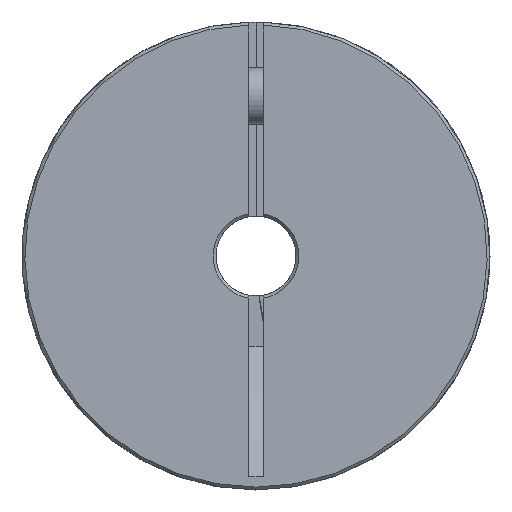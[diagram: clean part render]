
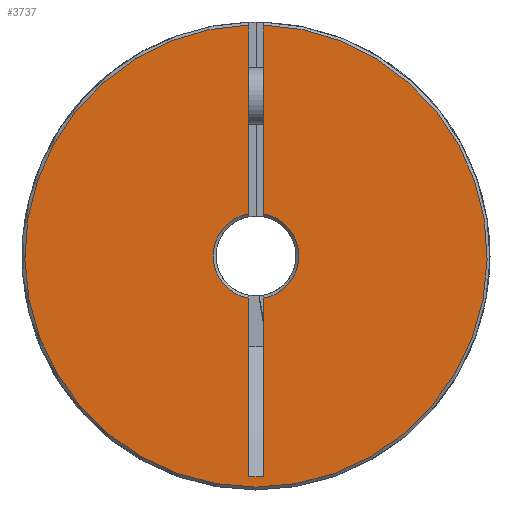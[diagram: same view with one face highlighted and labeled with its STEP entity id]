
A CAD part, left-side view. The second image highlights one B-rep face of the part: STEP entity #3737.
In plain terms, the highlighted planar face has unit normal (-1, 0, 0).
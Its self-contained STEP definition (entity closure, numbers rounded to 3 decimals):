
#15 = VERTEX_POINT ( 'NONE', #661 ) ;
#32 = VERTEX_POINT ( 'NONE', #867 ) ;
#37 = EDGE_CURVE ( 'NONE', #3697, #426, #892, .T. ) ;
#76 = EDGE_CURVE ( 'NONE', #32, #15, #1260, .T. ) ;
#87 = ORIENTED_EDGE ( 'NONE', *, *, #76, .T. ) ;
#138 = EDGE_LOOP ( 'NONE', ( #87, #3626, #364, #3464, #348, #3408, #322, #275, #264 ) ) ;
#192 = VERTEX_POINT ( 'NONE', #2348 ) ;
#264 = ORIENTED_EDGE ( 'NONE', *, *, #3530, .T. ) ;
#275 = ORIENTED_EDGE ( 'NONE', *, *, #3442, .F. ) ;
#311 = EDGE_CURVE ( 'NONE', #3697, #344, #3215, .T. ) ;
#322 = ORIENTED_EDGE ( 'NONE', *, *, #311, .T. ) ;
#344 = VERTEX_POINT ( 'NONE', #559 ) ;
#348 = ORIENTED_EDGE ( 'NONE', *, *, #493, .T. ) ;
#364 = ORIENTED_EDGE ( 'NONE', *, *, #451, .T. ) ;
#426 = VERTEX_POINT ( 'NONE', #918 ) ;
#451 = EDGE_CURVE ( 'NONE', #3555, #192, #981, .T. ) ;
#461 = VERTEX_POINT ( 'NONE', #1024 ) ;
#493 = EDGE_CURVE ( 'NONE', #461, #426, #1234, .T. ) ;
#559 = CARTESIAN_POINT ( 'NONE',  ( 0., -1.3, -7.386 ) ) ;
#592 = CARTESIAN_POINT ( 'NONE',  ( 0., -1.3, -38.697 ) ) ;
#661 = CARTESIAN_POINT ( 'NONE',  ( 0., 1.3, -7.386 ) ) ;
#867 = CARTESIAN_POINT ( 'NONE',  ( 0., 1.3, -38.697 ) ) ;
#892 = LINE ( 'NONE', #893, #894 ) ;
#893 = CARTESIAN_POINT ( 'NONE',  ( 0., -1.3, 0. ) ) ;
#894 = VECTOR ( 'NONE', #895, 1000. ) ;
#895 = DIRECTION ( 'NONE',  ( 0., 0., 1. ) ) ;
#918 = CARTESIAN_POINT ( 'NONE',  ( 0., -1.3, 40.479 ) ) ;
#981 = LINE ( 'NONE', #982, #983 ) ;
#982 = CARTESIAN_POINT ( 'NONE',  ( 0., 1.3, 0. ) ) ;
#983 = VECTOR ( 'NONE', #984, 1000. ) ;
#984 = DIRECTION ( 'NONE',  ( 0., 0., 1. ) ) ;
#1024 = CARTESIAN_POINT ( 'NONE',  ( 0., 0., -40.5 ) ) ;
#1025 = LINE ( 'NONE', #1026, #1027 ) ;
#1026 = CARTESIAN_POINT ( 'NONE',  ( 0., -1.3, -38.697 ) ) ;
#1027 = VECTOR ( 'NONE', #1028, 1000. ) ;
#1028 = DIRECTION ( 'NONE',  ( 0., 1., 0. ) ) ;
#1113 = EDGE_CURVE ( 'NONE', #192, #461, #1644, .T. ) ;
#1234 = CIRCLE ( 'NONE', #1235, 40.5 ) ;
#1235 = AXIS2_PLACEMENT_3D ( 'NONE', #1236, #1237, #1238 ) ;
#1236 = CARTESIAN_POINT ( 'NONE',  ( 0., 0., 0. ) ) ;
#1237 = DIRECTION ( 'NONE',  ( -1., 0., 0. ) ) ;
#1238 = DIRECTION ( 'NONE',  ( 0., 0., -1. ) ) ;
#1260 = LINE ( 'NONE', #1264, #1265 ) ;
#1264 = CARTESIAN_POINT ( 'NONE',  ( 0., 1.3, 0. ) ) ;
#1265 = VECTOR ( 'NONE', #1266, 1000. ) ;
#1266 = DIRECTION ( 'NONE',  ( 0., 0., 1. ) ) ;
#1304 = CARTESIAN_POINT ( 'NONE',  ( 0., 1.3, 7.386 ) ) ;
#1644 = CIRCLE ( 'NONE', #1645, 40.5 ) ;
#1645 = AXIS2_PLACEMENT_3D ( 'NONE', #1646, #1647, #1648 ) ;
#1646 = CARTESIAN_POINT ( 'NONE',  ( 0., 0., 0. ) ) ;
#1647 = DIRECTION ( 'NONE',  ( -1., 0., 0. ) ) ;
#1648 = DIRECTION ( 'NONE',  ( 0., 0., -1. ) ) ;
#2318 = CIRCLE ( 'NONE', #2319, 7.5 ) ;
#2319 = AXIS2_PLACEMENT_3D ( 'NONE', #2320, #2321, #2322 ) ;
#2320 = CARTESIAN_POINT ( 'NONE',  ( 0., 0., 0. ) ) ;
#2321 = DIRECTION ( 'NONE',  ( 1., 0., 0. ) ) ;
#2322 = DIRECTION ( 'NONE',  ( 0., 0., -1. ) ) ;
#2348 = CARTESIAN_POINT ( 'NONE',  ( 0., 1.3, 40.479 ) ) ;
#2611 = CARTESIAN_POINT ( 'NONE',  ( 0., -1.3, 7.386 ) ) ;
#2911 = FACE_OUTER_BOUND ( 'NONE', #138, .T. ) ;
#2912 = PLANE ( 'NONE',  #2915 ) ;
#2915 = AXIS2_PLACEMENT_3D ( 'NONE', #2916, #2917, #2918 ) ;
#2916 = CARTESIAN_POINT ( 'NONE',  ( 0., 7., 0. ) ) ;
#2917 = DIRECTION ( 'NONE',  ( 1., 0., 0. ) ) ;
#2918 = DIRECTION ( 'NONE',  ( 0., 0., -1. ) ) ;
#3175 = LINE ( 'NONE', #3176, #3177 ) ;
#3176 = CARTESIAN_POINT ( 'NONE',  ( 0., -1.3, 0. ) ) ;
#3177 = VECTOR ( 'NONE', #3178, 1000. ) ;
#3178 = DIRECTION ( 'NONE',  ( 0., 0., 1. ) ) ;
#3215 = CIRCLE ( 'NONE', #3216, 7.5 ) ;
#3216 = AXIS2_PLACEMENT_3D ( 'NONE', #3221, #3222, #3223 ) ;
#3221 = CARTESIAN_POINT ( 'NONE',  ( 0., 0., 0. ) ) ;
#3222 = DIRECTION ( 'NONE',  ( 1., 0., 0. ) ) ;
#3223 = DIRECTION ( 'NONE',  ( 0., 0., -1. ) ) ;
#3408 = ORIENTED_EDGE ( 'NONE', *, *, #37, .F. ) ;
#3442 = EDGE_CURVE ( 'NONE', #3477, #344, #3175, .T. ) ;
#3464 = ORIENTED_EDGE ( 'NONE', *, *, #1113, .T. ) ;
#3477 = VERTEX_POINT ( 'NONE', #592 ) ;
#3530 = EDGE_CURVE ( 'NONE', #3477, #32, #1025, .T. ) ;
#3555 = VERTEX_POINT ( 'NONE', #1304 ) ;
#3626 = ORIENTED_EDGE ( 'NONE', *, *, #3666, .T. ) ;
#3666 = EDGE_CURVE ( 'NONE', #15, #3555, #2318, .T. ) ;
#3697 = VERTEX_POINT ( 'NONE', #2611 ) ;
#3737 = ADVANCED_FACE ( 'NONE', ( #2911 ), #2912, .F. ) ;
